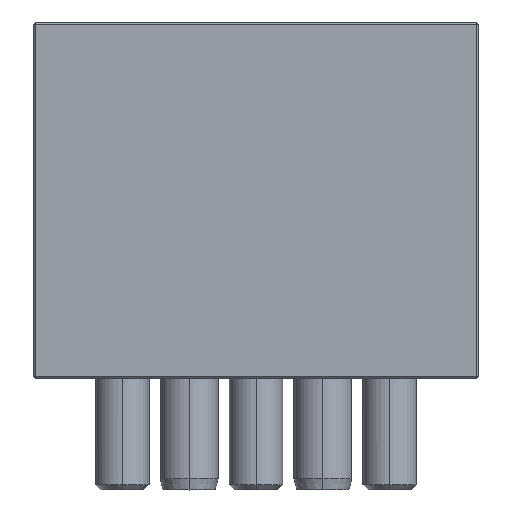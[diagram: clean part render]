
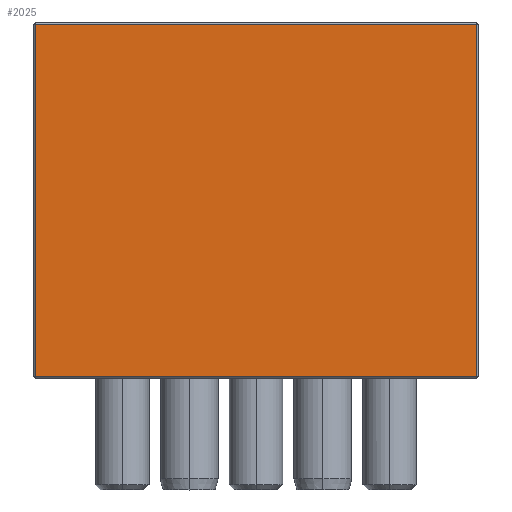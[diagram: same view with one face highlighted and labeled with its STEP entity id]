
A CAD part, front view. The second image highlights one B-rep face of the part: STEP entity #2025.
In plain terms, the highlighted planar face has unit normal (0, -1, 0).
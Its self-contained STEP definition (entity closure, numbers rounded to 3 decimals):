
#1998=AXIS2_PLACEMENT_3D('Plane Axis2P3D',#1995,#1996,#1997) ;
#623=CARTESIAN_POINT('Vertex',(-49.5,-35.,79.5)) ;
#630=CARTESIAN_POINT('Vertex',(-49.5,-35.,0.5)) ;
#633=CARTESIAN_POINT('Line Origine',(-49.5,-35.,40.)) ;
#1995=CARTESIAN_POINT('Axis2P3D Location',(-50.,-35.,0.)) ;
#2000=CARTESIAN_POINT('Line Origine',(0.,-35.,79.5)) ;
#2004=CARTESIAN_POINT('Vertex',(49.5,-35.,79.5)) ;
#2007=CARTESIAN_POINT('Line Origine',(0.,-35.,0.5)) ;
#2011=CARTESIAN_POINT('Vertex',(49.5,-35.,0.5)) ;
#2014=CARTESIAN_POINT('Line Origine',(49.5,-35.,40.)) ;
#634=DIRECTION('Vector Direction',(0.,0.,1.)) ;
#1996=DIRECTION('Axis2P3D Direction',(0.,-1.,0.)) ;
#1997=DIRECTION('Axis2P3D XDirection',(1.,0.,0.)) ;
#2001=DIRECTION('Vector Direction',(1.,0.,0.)) ;
#2008=DIRECTION('Vector Direction',(-1.,0.,0.)) ;
#2015=DIRECTION('Vector Direction',(0.,0.,-1.)) ;
#635=VECTOR('Line Direction',#634,1.) ;
#2002=VECTOR('Line Direction',#2001,1.) ;
#2009=VECTOR('Line Direction',#2008,1.) ;
#2016=VECTOR('Line Direction',#2015,1.) ;
#2020=ORIENTED_EDGE('',*,*,#2006,.F.) ;
#2021=ORIENTED_EDGE('',*,*,#637,.F.) ;
#2022=ORIENTED_EDGE('',*,*,#2013,.F.) ;
#2023=ORIENTED_EDGE('',*,*,#2018,.F.) ;
#2025=ADVANCED_FACE('MANIFOLD_SOLID_BREP #2331',(#2024),#1999,.T.) ;
#637=EDGE_CURVE('',#631,#624,#636,.T.) ;
#2006=EDGE_CURVE('',#624,#2005,#2003,.T.) ;
#2013=EDGE_CURVE('',#2012,#631,#2010,.T.) ;
#2018=EDGE_CURVE('',#2005,#2012,#2017,.T.) ;
#2019=EDGE_LOOP('',(#2020,#2021,#2022,#2023)) ;
#2024=FACE_OUTER_BOUND('',#2019,.T.) ;
#636=LINE('Line',#633,#635) ;
#2003=LINE('Line',#2000,#2002) ;
#2010=LINE('Line',#2007,#2009) ;
#2017=LINE('Line',#2014,#2016) ;
#1999=PLANE('Plane',#1998) ;
#624=VERTEX_POINT('',#623) ;
#631=VERTEX_POINT('',#630) ;
#2005=VERTEX_POINT('',#2004) ;
#2012=VERTEX_POINT('',#2011) ;
